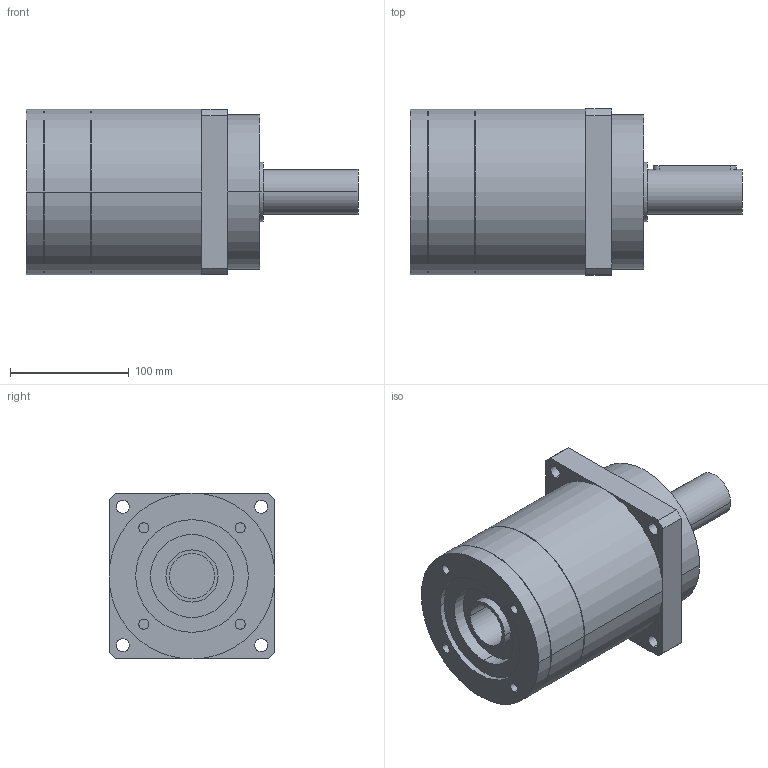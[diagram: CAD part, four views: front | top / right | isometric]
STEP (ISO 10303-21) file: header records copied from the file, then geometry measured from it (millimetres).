
FILE_DESCRIPTION(('CoCreate Modeling STEP Export'),'2;1');
FILE_NAME('GPR150_ig-3-4-5-7_38_B5_38_P03.stp','2014-08-19T16:43:26',(''),(''),'CoCreate Modeling STEP processor for AP214 (Solid Model)','CoCreate Modeling 16.00C 25-Feb-2009 (C) Parametric Technology GmbH','');
FILE_SCHEMA(('AUTOMOTIVE_DESIGN { 1 0 10303 214 1 1 1 1 }'));
Length unit declared in the file: millimetre
Products named in the file (2): GPR150_ig-3-4-5-7_38_B5_38_P03
Assembly tree (1 placements, depth 2):
  GPR150_ig-3-4-5-7_38_B5_38_P03
    GPR150_ig-3-4-5-7_38_B5_38_P03
Bounding box: 280 x 140 x 140 mm (x, y, z)
Volume: 3001908.6 mm3; surface area: 157597.6 mm2
Topology: 1 solids, 1 shells, 88 faces, 224 edges, 154 vertices
Faces by surface type: cylinder 52, plane 30, cone 6
Entity records: 2327 total; most frequent: ORIENTED_EDGE 444, CARTESIAN_POINT 426, DIRECTION 320, EDGE_CURVE 222, VERTEX_POINT 154, AXIS2_PLACEMENT_3D 120, EDGE_LOOP 114, FACE_OUTER_BOUND 88
